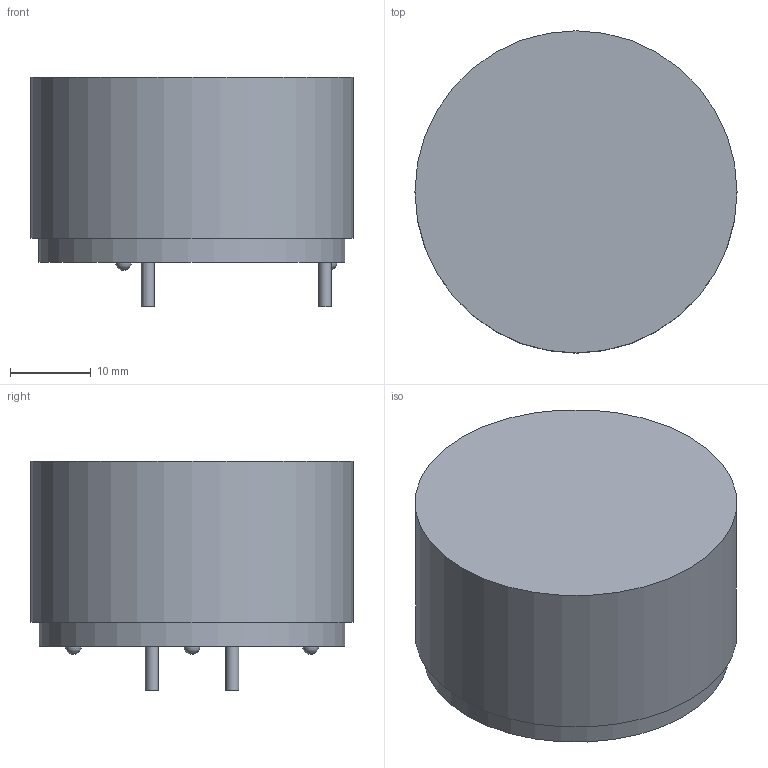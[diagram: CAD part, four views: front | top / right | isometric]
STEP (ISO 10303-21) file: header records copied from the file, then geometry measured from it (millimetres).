
FILE_DESCRIPTION(/* description */ (''),/* implementation_level */ '2;1');
FILE_NAME(/* name */ 'F:\Done\2016\多产品3D模拟\终版\新建文件夹\6123-X616\6123-X616 3D Model.stp',/* time_stamp */ '2016-07-12T14:58:56+08:00',/* author */ ('CN000562'),/* organization */ (''),/* preprocessor_version */ 'ST-DEVELOPER v16.5',/* originating_system */ 'Autodesk Inventor 2017',/* authorisation */ '');
FILE_SCHEMA (('AUTOMOTIVE_DESIGN { 1 0 10303 214 3 1 1 }'));
Length unit declared in the file: millimetre
Products named in the file (1): 6123-X316
Bounding box: 40 x 40 x 28.5 mm (x, y, z)
Volume: 28578.6 mm3; surface area: 5515.6 mm2
Topology: 1 solids, 1 shells, 19 faces, 37 edges, 24 vertices
Faces by surface type: cylinder 8, plane 8, sphere 3
Full cylindrical faces by diameter (mm): 1.6 x4, 40 x1
Entity records: 440 total; most frequent: DIRECTION 84, CARTESIAN_POINT 63, ORIENTED_EDGE 48, AXIS2_PLACEMENT_3D 40, EDGE_LOOP 31, EDGE_CURVE 24, CIRCLE 20, FACE_OUTER_BOUND 19
